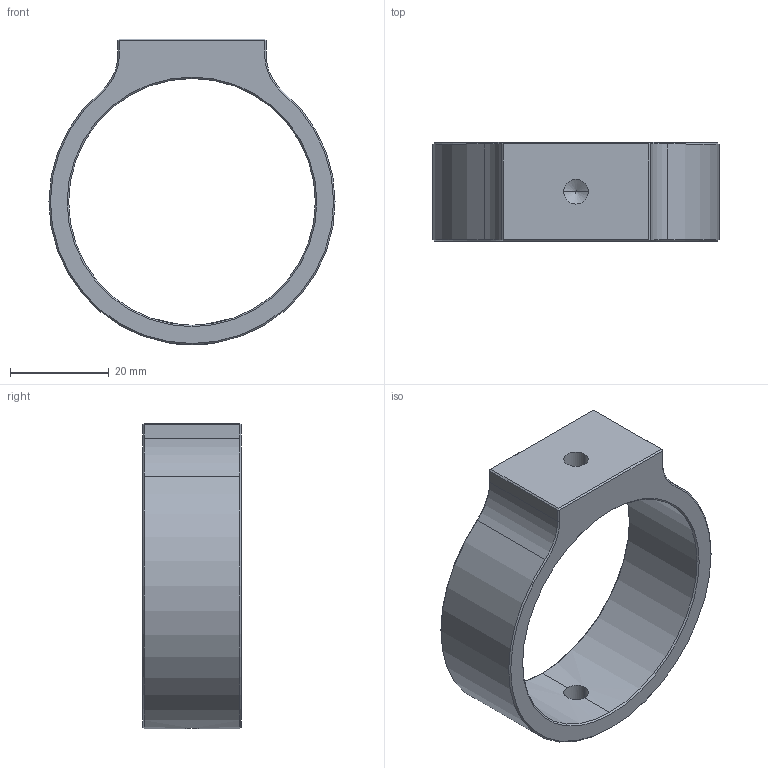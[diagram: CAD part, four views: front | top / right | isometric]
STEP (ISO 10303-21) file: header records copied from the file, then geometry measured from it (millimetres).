
FILE_DESCRIPTION (( 'STEP AP214' ), '1' );
FILE_NAME ('噩芛埴倛標撿.STEP', '2026-09-09T05:12:01', ( '' ), ( '' ), 'SwSTEP 2.0', 'SolidWorks 2024', '' );
FILE_SCHEMA (( 'AUTOMOTIVE_DESIGN' ));
Length unit declared in the file: millimetre
Products named in the file (1): 镜头圆形夹具
Bounding box: 58 x 20 x 62 mm (x, y, z)
Volume: 16674.9 mm3; surface area: 8741.8 mm2
Topology: 1 solids, 1 shells, 40 faces, 96 edges, 55 vertices
Faces by surface type: plane 17, cone 13, cylinder 10
Entity records: 1343 total; most frequent: CARTESIAN_POINT 393, DIRECTION 193, ORIENTED_EDGE 192, EDGE_CURVE 96, AXIS2_PLACEMENT_3D 68, VECTOR 57, LINE 57, VERTEX_POINT 55
